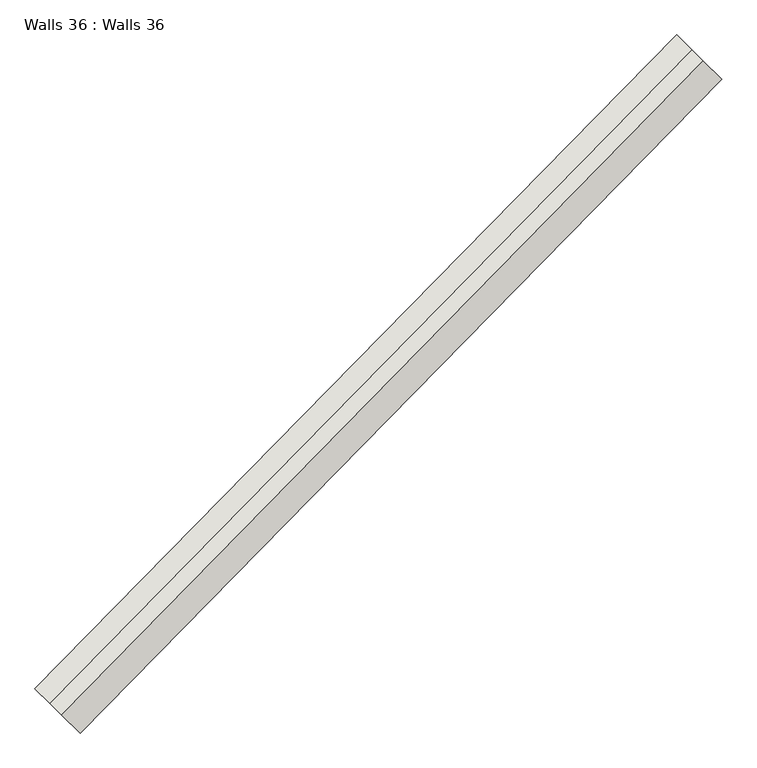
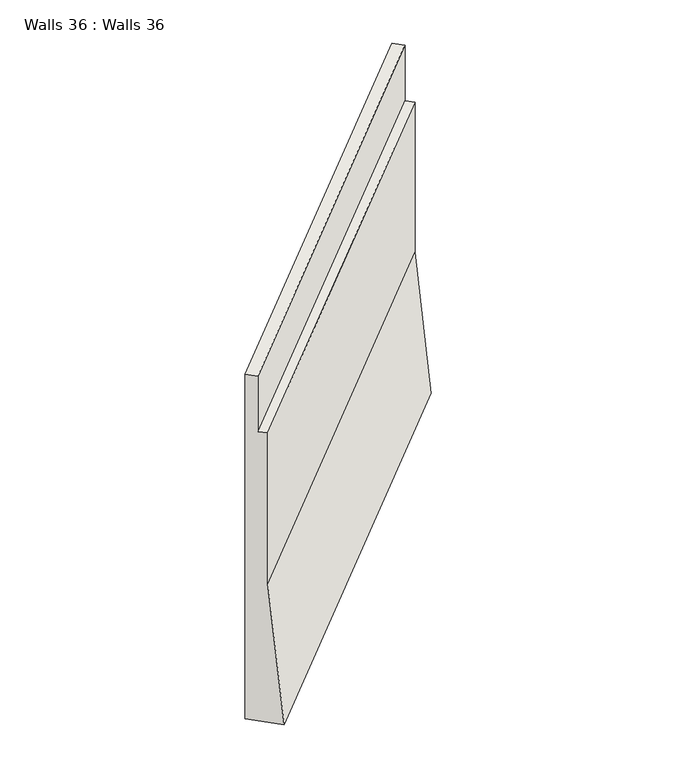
"""IFC4 building model written with IfcOpenShell, lengths in millimetres: wall geometry, Walls 36 : Walls 36."""

from ifc_helpers import new_model, si_unit, origin, place, context, project, spatial, faceted_brep, source, transform, mapped, element, save


def walls_36_walls_36_26bca633(model_context):
    return source(origin(), model_context, "Body", "Brep", [
        faceted_brep([(-172141.3560479, -331619.4317449, 636320.0), (-172319.7918839, -331444.3263205, 638820.0), (-172319.7918839, -331444.3263205, 641540.0), (-172426.8520744, -331339.2643524, 641540.0), (-172426.8520744, -331339.2643524, 642540.0), (-172569.5989951, -331199.1817283, 642540.0), (-172569.5989951, -331199.1817283, 636320.0), (-166047.7485653, -325409.9271058, 636400.0), (-166475.9915125, -324989.6770892, 636400.0), (-166475.9915125, -324989.6770892, 642610.0), (-166333.2445918, -325129.7597133, 642610.0), (-166333.2445918, -325129.7597133, 641610.0), (-166226.1844012, -325234.8216813, 641610.0), (-166226.1844012, -325234.8216813, 638900.0)], [[[0, 1, 2, 3, 4, 5, 6]], [[7, 8, 9, 10, 11, 12, 13]], [[7, 13, 1, 0]], [[13, 12, 2, 1]], [[12, 11, 3, 2]], [[11, 10, 4, 3]], [[10, 9, 5, 4]], [[9, 8, 6, 5]], [[8, 7, 0, 6]]]),
    ])


if __name__ == "__main__":
    model = new_model("IFC4")
    model_context = context("Model", 3, world=origin())
    ifc_project = project(units=[si_unit("LENGTHUNIT", "METRE", prefix="MILLI")], contexts=[model_context])
    site = spatial("IfcSite", under=ifc_project)
    building = spatial("IfcBuilding", under=site)
    placement = place(None, origin())
    walls_36_walls_36_shape = walls_36_walls_36_26bca633(model_context)
    element("IfcWall", 1, ObjectType="Walls 36 : Walls 36", at=placement, inside=building, context=model_context, shape_type="MappedRepresentation", body=[
        mapped(walls_36_walls_36_shape, transform((0.0, 0.0, 0.0), x_axis=(1.0, 0.0, 0.0), y_axis=(0.0, 1.0, 0.0), z_axis=(0.0, 0.0, 1.0))),
    ])
    save(model, "model.ifc")
